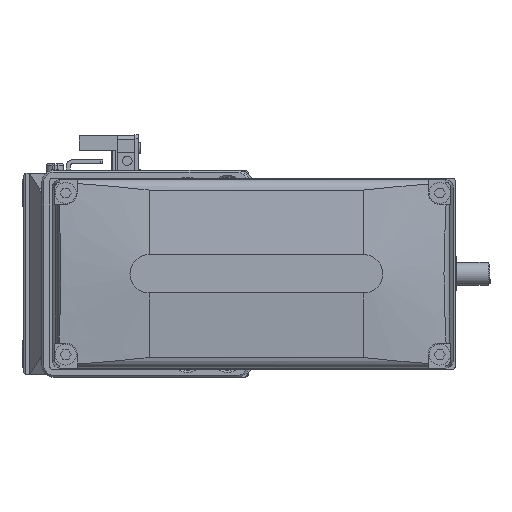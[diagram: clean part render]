
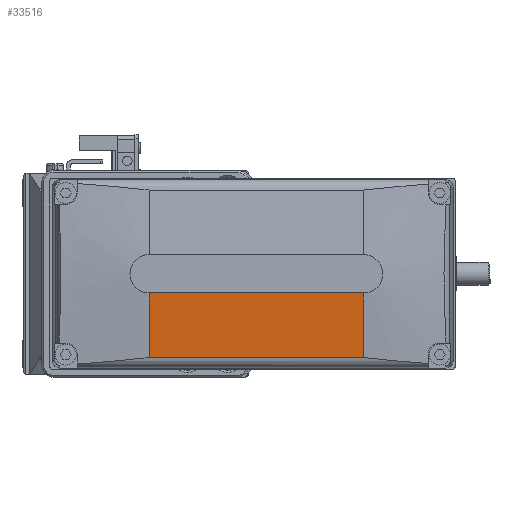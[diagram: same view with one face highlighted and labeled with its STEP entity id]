
A CAD part, left-side view. The second image highlights one B-rep face of the part: STEP entity #33516.
In plain terms, the highlighted planar face has unit normal (-0.996, 0, -0.087).
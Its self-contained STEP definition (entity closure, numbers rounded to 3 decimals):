
#1146 = VECTOR ( 'NONE', #32735, 1000. ) ;
#2216 = ORIENTED_EDGE ( 'NONE', *, *, #35120, .F. ) ;
#3170 = VECTOR ( 'NONE', #27647, 1000. ) ;
#3678 = CARTESIAN_POINT ( 'NONE',  ( -50., 128., -5. ) ) ;
#4165 = CARTESIAN_POINT ( 'NONE',  ( 43606.406, 28., -499000. ) ) ;
#5185 = ORIENTED_EDGE ( 'NONE', *, *, #17478, .T. ) ;
#5394 = VERTEX_POINT ( 'NONE', #15517 ) ;
#6012 = EDGE_CURVE ( 'NONE', #24591, #5394, #15428, .T. ) ;
#6776 = CARTESIAN_POINT ( 'NONE',  ( -50., -28., -5. ) ) ;
#8276 = ORIENTED_EDGE ( 'NONE', *, *, #20547, .F. ) ;
#8411 = ORIENTED_EDGE ( 'NONE', *, *, #6012, .F. ) ;
#9471 = CARTESIAN_POINT ( 'NONE',  ( -48.525, 28., -21.861 ) ) ;
#13355 = DIRECTION ( 'NONE',  ( 0., 1., 0. ) ) ;
#14170 = VECTOR ( 'NONE', #13355, 1000. ) ;
#14226 = FACE_OUTER_BOUND ( 'NONE', #32066, .T. ) ;
#15079 = PLANE ( 'NONE',  #26882 ) ;
#15428 = LINE ( 'NONE', #35882, #29542 ) ;
#15517 = CARTESIAN_POINT ( 'NONE',  ( -48.525, -28., -21.861 ) ) ;
#15832 = CARTESIAN_POINT ( 'NONE',  ( -48.525, 128., -21.861 ) ) ;
#16454 = VERTEX_POINT ( 'NONE', #20939 ) ;
#17478 = EDGE_CURVE ( 'NONE', #24591, #16454, #34580, .T. ) ;
#20362 = DIRECTION ( 'NONE',  ( -0.996, 0., -0.087 ) ) ;
#20547 = EDGE_CURVE ( 'NONE', #34125, #16454, #35291, .T. ) ;
#20939 = CARTESIAN_POINT ( 'NONE',  ( -50., 28., -5. ) ) ;
#21653 = DIRECTION ( 'NONE',  ( 0.087, 0., -0.996 ) ) ;
#22550 = LINE ( 'NONE', #15832, #14170 ) ;
#23443 = DIRECTION ( 'NONE',  ( -0.087, 0., 0.996 ) ) ;
#24591 = VERTEX_POINT ( 'NONE', #6776 ) ;
#24699 = CARTESIAN_POINT ( 'NONE',  ( -50., 128., -5. ) ) ;
#26882 = AXIS2_PLACEMENT_3D ( 'NONE', #3678, #20362, #23443 ) ;
#27647 = DIRECTION ( 'NONE',  ( 0., 1., 0. ) ) ;
#29542 = VECTOR ( 'NONE', #21653, 1000. ) ;
#32066 = EDGE_LOOP ( 'NONE', ( #8276, #2216, #8411, #5185 ) ) ;
#32735 = DIRECTION ( 'NONE',  ( -0.087, 0., 0.996 ) ) ;
#33516 = ADVANCED_FACE ( 'NONE', ( #14226 ), #15079, .T. ) ;
#34125 = VERTEX_POINT ( 'NONE', #9471 ) ;
#34580 = LINE ( 'NONE', #24699, #3170 ) ;
#35120 = EDGE_CURVE ( 'NONE', #5394, #34125, #22550, .T. ) ;
#35291 = LINE ( 'NONE', #4165, #1146 ) ;
#35882 = CARTESIAN_POINT ( 'NONE',  ( 43606.406, -28., -499000. ) ) ;
